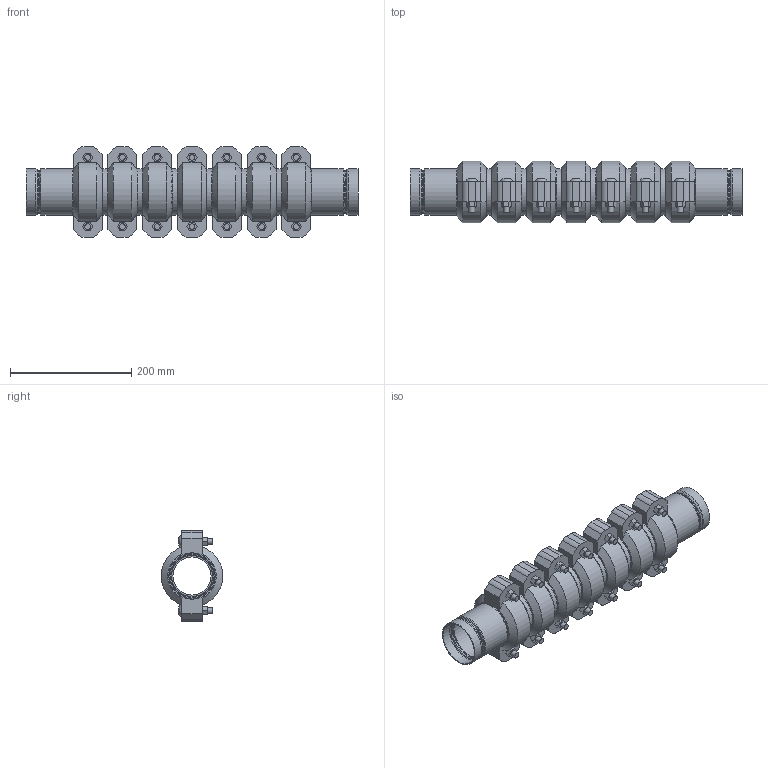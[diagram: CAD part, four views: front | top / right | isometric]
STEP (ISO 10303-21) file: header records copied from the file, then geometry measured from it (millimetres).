
FILE_DESCRIPTION(/* description */ ('VIC STRENGTHIN 100 EXPANSION JOINT 7 COUPLINGS COMPRESSED STYLE E155 (ST1)','CAx-IF Rec.Pracs.---Representation and Presentation of Product Manufacturing Information (PMI)---4.0---2014-10-13'),/* implementation_level */ '2;1');
FILE_NAME(/* name */ 'C:\Users\Vjadhav\AppData\Roaming\Autodesk\ApplicationPlugins\Victaulic.Temp\A926\Victaulic_SS-StrengThin 100_Expansion Joint_Compressed_7 Couplings_Style E155 (ST1)_02.5 (76.1) (65).stp',/* time_stamp */ '2021-07-23T12:34:54+05:00',/* author */ ('kkamble'),/* organization */ ('Victaulic'),/* preprocessor_version */ 'ST-DEVELOPER v17.2',/* originating_system */ 'Autodesk Inventor 2019',/* authorisation */ '');
FILE_SCHEMA (('AP242_MANAGED_MODEL_BASED_3D_ENGINEERING_MIM_LF { 1 0 10303 442 1 1 4 }'));
Length unit declared in the file: inch
Products named in the file (4): E155-02.5 (76.1); E494G-02.5 (76.1); Nipple-02.5 (76.1); 075-02.5 (76.1)
Assembly tree (15 placements, depth 2):
  E155-02.5 (76.1)
    E494G-02.5 (76.1)  x2
    Nipple-02.5 (76.1)  x6
    075-02.5 (76.1)  x7
Bounding box: 547.62 x 101.25 x 149.86 mm (x, y, z)
Volume: 2076225.1 mm3; surface area: 585222.9 mm2
Topology: 15 solids, 29 shells, 511 faces, 1319 edges, 926 vertices
Faces by surface type: plane 286, cylinder 147, torus 32, cone 32, bspline 14
Full cylindrical faces by diameter (mm): 9.525 x28, 11.43 x14, 62.713 x6, 67.158 x2, 69.063 x2, 70.358 x2, 72.263 x14, 73 x6, 76.2 x31
Entity records: 3729 total; most frequent: CARTESIAN_POINT 679, DIRECTION 657, ORIENTED_EDGE 544, AXIS2_PLACEMENT_3D 279, EDGE_CURVE 272, VERTEX_POINT 195, CIRCLE 163, EDGE_LOOP 121
